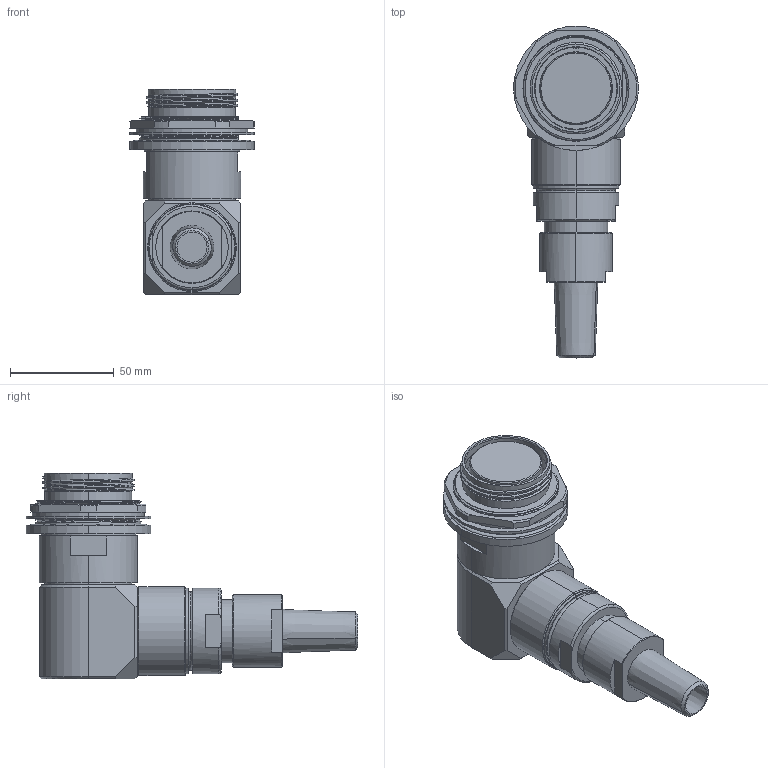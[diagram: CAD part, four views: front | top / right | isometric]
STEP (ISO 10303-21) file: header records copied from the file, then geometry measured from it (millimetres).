
FILE_DESCRIPTION (( 'STEP AP214' ), '1' );
FILE_NAME ('QLINK90-RJTX-27XX-SXXX.STEP', '2025-10-23T14:19:55', ( '' ), ( '' ), 'SwSTEP 2.0', 'SolidWorks 2024', '' );
FILE_SCHEMA (( 'AUTOMOTIVE_DESIGN' ));
Length unit declared in the file: millimetre
Products named in the file (1): QLINK90-RJTX-27XX-SXXX
Bounding box: 60.07 x 160.02 x 99.31 mm (x, y, z)
Volume: 268006.7 mm3; surface area: 50162.4 mm2
Topology: 2 solids, 4 shells, 283 faces, 707 edges, 456 vertices
Faces by surface type: cylinder 89, plane 75, cone 57, bspline 39, torus 23
Entity records: 19653 total; most frequent: CARTESIAN_POINT 13304, ORIENTED_EDGE 1414, DIRECTION 1230, EDGE_CURVE 707, AXIS2_PLACEMENT_3D 497, VERTEX_POINT 456, EDGE_LOOP 315, ADVANCED_FACE 283
